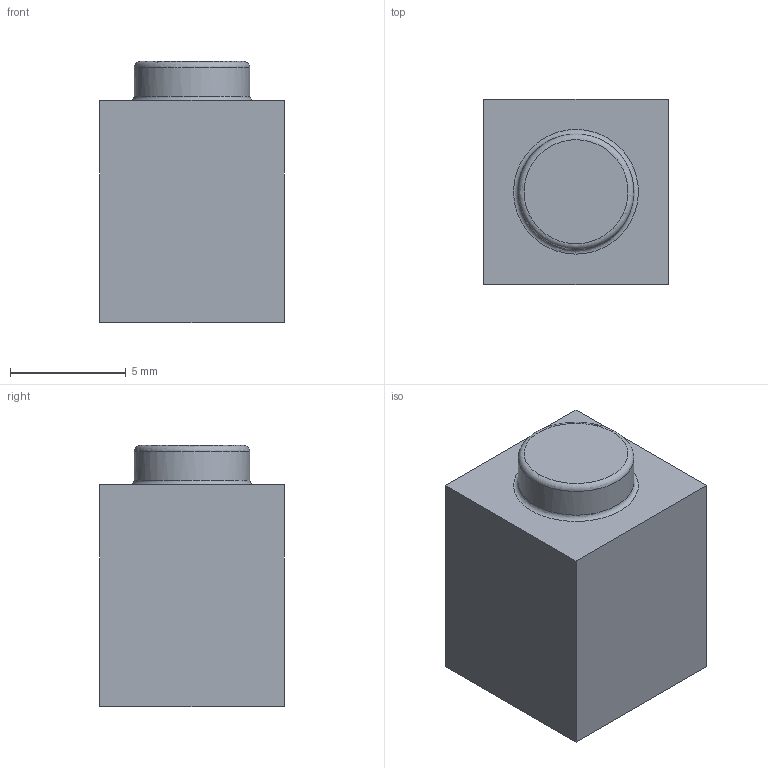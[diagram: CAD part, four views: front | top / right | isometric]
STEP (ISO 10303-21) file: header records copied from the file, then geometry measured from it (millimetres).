
FILE_DESCRIPTION(('Open CASCADE Model'),'2;1');
FILE_NAME('Open CASCADE Shape Model','2026-10-26T18:26:44',('Author'),( 'Open CASCADE'),'Open CASCADE STEP processor 7.9','Open CASCADE 7.9' ,'Unknown');
FILE_SCHEMA(('AUTOMOTIVE_DESIGN { 1 0 10303 214 1 1 1 1 }'));
Length unit declared in the file: millimetre
Products named in the file (1): Open CASCADE STEP translator 7.9 1
Bounding box: 8 x 8 x 11.3 mm (x, y, z)
Volume: 463 mm3; surface area: 610.8 mm2
Topology: 1 solids, 1 shells, 33 faces, 80 edges, 51 vertices
Faces by surface type: plane 28, cylinder 3, torus 2
Full cylindrical faces by diameter (mm): 5.001 x1
Entity records: 7490 total; most frequent: CARTESIAN_POINT 5969, DIRECTION 240, LINE 164, VECTOR 164, ORIENTED_EDGE 160, PCURVE 160, DEFINITIONAL_REPRESENTATION 160, EDGE_CURVE 80
